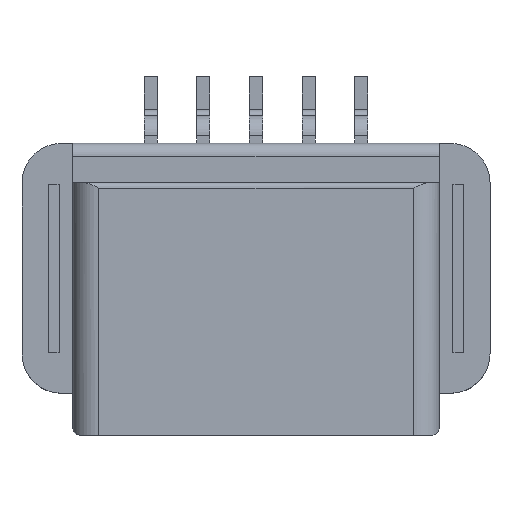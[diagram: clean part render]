
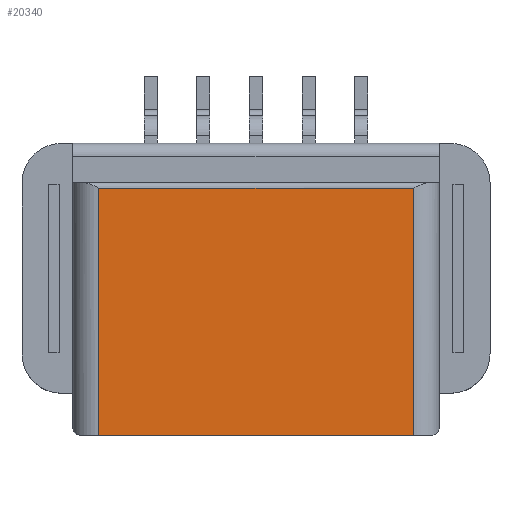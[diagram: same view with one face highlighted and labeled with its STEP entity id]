
A CAD part, top view. The second image highlights one B-rep face of the part: STEP entity #20340.
In plain terms, the highlighted planar face has unit normal (0, 0, 1).
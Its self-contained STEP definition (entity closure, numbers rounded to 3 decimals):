
#15420=CARTESIAN_POINT('',(-5.975,-6.825,6.9));
#15430=VERTEX_POINT('',#15420);
#16580=CARTESIAN_POINT('',(-5.975,2.575,6.9));
#16590=VERTEX_POINT('',#16580);
#16620=CARTESIAN_POINT('',(-5.975,-6.825,6.9));
#16630=DIRECTION('',(0.,1.,0.));
#16640=VECTOR('',#16630,1.);
#16650=LINE('',#16620,#16640);
#16660=EDGE_CURVE('',#15430,#16590,#16650,.T.);
#16830=CARTESIAN_POINT('',(4.463,-6.825,6.9));
#16840=DIRECTION('',(1.,0.,-0.));
#16850=VECTOR('',#16840,1.);
#16860=LINE('',#16830,#16850);
#16870=CARTESIAN_POINT('',(5.975,-6.825,6.9));
#16880=VERTEX_POINT('',#16870);
#16890=EDGE_CURVE('',#15430,#16880,#16860,.T.);
#19480=CARTESIAN_POINT('',(5.975,-6.825,6.9));
#19490=DIRECTION('',(0.,1.,0.));
#19500=VECTOR('',#19490,1.);
#19510=LINE('',#19480,#19500);
#19520=CARTESIAN_POINT('',(5.975,2.575,6.9));
#19530=VERTEX_POINT('',#19520);
#19540=EDGE_CURVE('',#16880,#19530,#19510,.T.);
#20180=CARTESIAN_POINT('',(-6.274,-7.06,6.9));
#20190=DIRECTION('',(0.,0.,1.));
#20200=DIRECTION('',(1.,0.,0.));
#20210=AXIS2_PLACEMENT_3D('',#20180,#20190,#20200);
#20220=PLANE('',#20210);
#20230=ORIENTED_EDGE('',*,*,#16660,.F.);
#20240=CARTESIAN_POINT('',(-5.975,2.575,6.9));
#20250=DIRECTION('',(1.,0.,0.));
#20260=VECTOR('',#20250,1.);
#20270=LINE('',#20240,#20260);
#20280=EDGE_CURVE('',#16590,#19530,#20270,.T.);
#20290=ORIENTED_EDGE('',*,*,#20280,.F.);
#20300=ORIENTED_EDGE('',*,*,#19540,.T.);
#20310=ORIENTED_EDGE('',*,*,#16890,.T.);
#20320=EDGE_LOOP('',(#20310,#20300,#20290,#20230));
#20330=FACE_OUTER_BOUND('',#20320,.T.);
#20340=ADVANCED_FACE('',(#20330),#20220,.T.);
